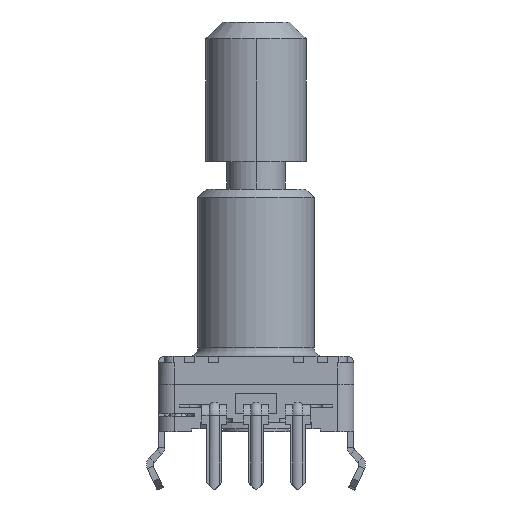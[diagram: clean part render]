
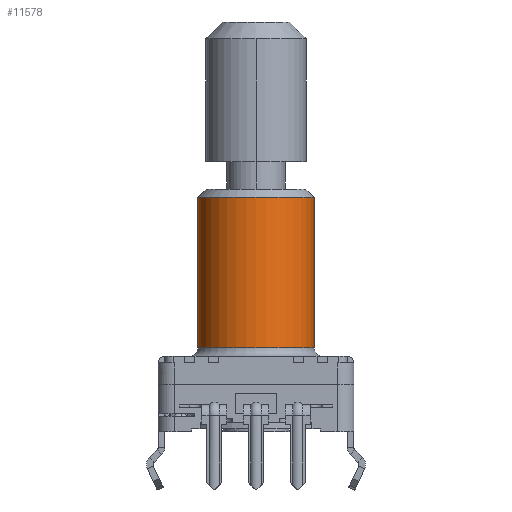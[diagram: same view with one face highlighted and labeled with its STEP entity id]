
A CAD part, front view. The second image highlights one B-rep face of the part: STEP entity #11578.
In plain terms, the highlighted cylindrical face has radius 3.487 mm (diameter 6.975 mm), a partial arc.
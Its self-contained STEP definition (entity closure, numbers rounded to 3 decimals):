
#254 = CARTESIAN_POINT ( 'NONE',  ( 0., 0., -10. ) ) ;
#1226 = VERTEX_POINT ( 'NONE', #12341 ) ;
#1547 = LINE ( 'NONE', #3909, #6795 ) ;
#2945 = LINE ( 'NONE', #7981, #21835 ) ;
#3909 = CARTESIAN_POINT ( 'NONE',  ( 0., 3.487, -10. ) ) ;
#4541 = DIRECTION ( 'NONE',  ( 0., 0., -1. ) ) ;
#5318 = VERTEX_POINT ( 'NONE', #25128 ) ;
#5458 = AXIS2_PLACEMENT_3D ( 'NONE', #24195, #20294, #10392 ) ;
#6237 = EDGE_CURVE ( 'NONE', #8441, #7597, #2945, .T. ) ;
#6315 = EDGE_CURVE ( 'NONE', #7597, #1226, #20570, .T. ) ;
#6795 = VECTOR ( 'NONE', #23864, 1000. ) ;
#6947 = ORIENTED_EDGE ( 'NONE', *, *, #14190, .F. ) ;
#7597 = VERTEX_POINT ( 'NONE', #23264 ) ;
#7981 = CARTESIAN_POINT ( 'NONE',  ( 0., -3.488, -10. ) ) ;
#8203 = DIRECTION ( 'NONE',  ( 0., -1., 0. ) ) ;
#8441 = VERTEX_POINT ( 'NONE', #18317 ) ;
#8515 = CIRCLE ( 'NONE', #15821, 3.487 ) ;
#10000 = ORIENTED_EDGE ( 'NONE', *, *, #18421, .T. ) ;
#10392 = DIRECTION ( 'NONE',  ( 0., -1., 0. ) ) ;
#11578 = ADVANCED_FACE ( 'NONE', ( #12826 ), #19282, .T. ) ;
#12341 = CARTESIAN_POINT ( 'NONE',  ( 0., 3.488, -19.5 ) ) ;
#12826 = FACE_OUTER_BOUND ( 'NONE', #17843, .T. ) ;
#13306 = CARTESIAN_POINT ( 'NONE',  ( 0., 0., -10.5 ) ) ;
#13762 = AXIS2_PLACEMENT_3D ( 'NONE', #254, #4541, #8203 ) ;
#14190 = EDGE_CURVE ( 'NONE', #5318, #1226, #1547, .T. ) ;
#15450 = DIRECTION ( 'NONE',  ( 0., -1., 0. ) ) ;
#15821 = AXIS2_PLACEMENT_3D ( 'NONE', #13306, #23119, #15450 ) ;
#17843 = EDGE_LOOP ( 'NONE', ( #6947, #10000, #21435, #19964 ) ) ;
#18317 = CARTESIAN_POINT ( 'NONE',  ( 0., -3.488, -10.5 ) ) ;
#18421 = EDGE_CURVE ( 'NONE', #5318, #8441, #8515, .T. ) ;
#19282 = CYLINDRICAL_SURFACE ( 'NONE', #13762, 3.487 ) ;
#19964 = ORIENTED_EDGE ( 'NONE', *, *, #6315, .T. ) ;
#20294 = DIRECTION ( 'NONE',  ( 0., 0., 1. ) ) ;
#20570 = CIRCLE ( 'NONE', #5458, 3.487 ) ;
#21435 = ORIENTED_EDGE ( 'NONE', *, *, #6237, .T. ) ;
#21785 = DIRECTION ( 'NONE',  ( 0., 0., -1. ) ) ;
#21835 = VECTOR ( 'NONE', #21785, 1000. ) ;
#23119 = DIRECTION ( 'NONE',  ( 0., 0., -1. ) ) ;
#23264 = CARTESIAN_POINT ( 'NONE',  ( 0., -3.487, -19.5 ) ) ;
#23864 = DIRECTION ( 'NONE',  ( 0., 0., -1. ) ) ;
#24195 = CARTESIAN_POINT ( 'NONE',  ( 0., 0., -19.5 ) ) ;
#25128 = CARTESIAN_POINT ( 'NONE',  ( 0., 3.487, -10.5 ) ) ;
